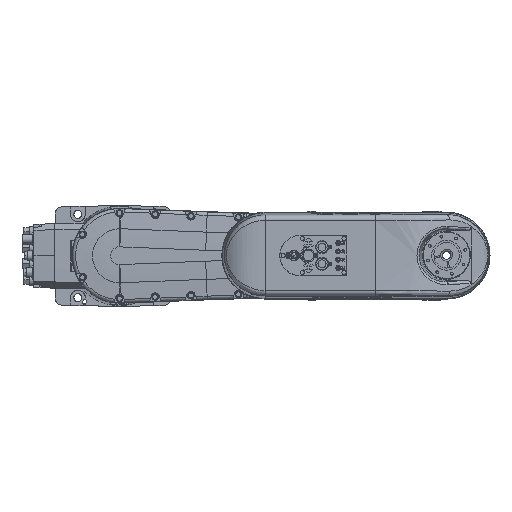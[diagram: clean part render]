
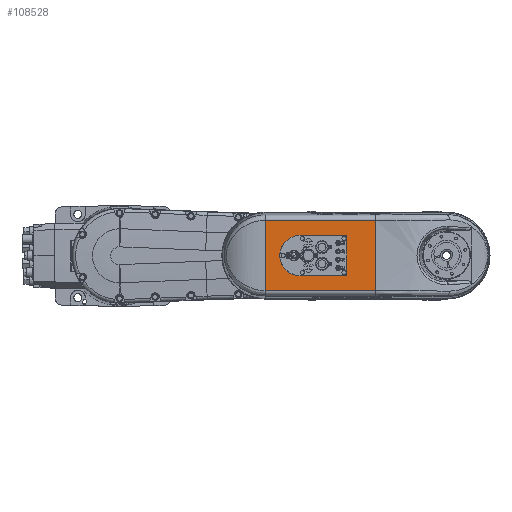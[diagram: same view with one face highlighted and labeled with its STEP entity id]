
A CAD part, top view. The second image highlights one B-rep face of the part: STEP entity #108528.
In plain terms, the highlighted planar face has unit normal (0, 0, 1).
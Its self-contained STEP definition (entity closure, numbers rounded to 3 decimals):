
#563 = DIRECTION ( 'NONE',  ( 0., 1., 0. ) ) ;
#685 = CARTESIAN_POINT ( 'NONE',  ( 303.5, -34., 457.7 ) ) ;
#2413 = EDGE_CURVE ( 'NONE', #72971, #26965, #75098, .T. ) ;
#2841 = ORIENTED_EDGE ( 'NONE', *, *, #95633, .T. ) ;
#4380 = EDGE_CURVE ( 'NONE', #104007, #23767, #85513, .T. ) ;
#4924 = EDGE_CURVE ( 'NONE', #26965, #104007, #38792, .T. ) ;
#5178 = EDGE_CURVE ( 'NONE', #20614, #14086, #85186, .T. ) ;
#5214 = ORIENTED_EDGE ( 'NONE', *, *, #16108, .F. ) ;
#5534 = VECTOR ( 'NONE', #6730, 1000. ) ;
#6730 = DIRECTION ( 'NONE',  ( -1., 0., 0. ) ) ;
#7633 = CARTESIAN_POINT ( 'NONE',  ( 382.5, 34., 457.7 ) ) ;
#8638 = EDGE_CURVE ( 'NONE', #106821, #20614, #63110, .T. ) ;
#10303 = DIRECTION ( 'NONE',  ( 1., 0., 0. ) ) ;
#11814 = ORIENTED_EDGE ( 'NONE', *, *, #5178, .T. ) ;
#12340 = CARTESIAN_POINT ( 'NONE',  ( 245., 59.156, 457.7 ) ) ;
#14086 = VERTEX_POINT ( 'NONE', #105914 ) ;
#14587 = CARTESIAN_POINT ( 'NONE',  ( 381.672, -34., 457.7 ) ) ;
#15045 = ORIENTED_EDGE ( 'NONE', *, *, #2413, .F. ) ;
#16108 = EDGE_CURVE ( 'NONE', #41041, #14086, #104235, .T. ) ;
#18399 = EDGE_LOOP ( 'NONE', ( #90274, #11814, #5214, #97958 ) ) ;
#19163 = CARTESIAN_POINT ( 'NONE',  ( 430., 59.156, 457.7 ) ) ;
#19726 = ORIENTED_EDGE ( 'NONE', *, *, #4924, .F. ) ;
#20614 = VERTEX_POINT ( 'NONE', #19163 ) ;
#20915 = CARTESIAN_POINT ( 'NONE',  ( 245., -59.156, 457.7 ) ) ;
#21265 = LINE ( 'NONE', #56710, #67665 ) ;
#21429 = CARTESIAN_POINT ( 'NONE',  ( 382.5, 32.001, 457.7 ) ) ;
#21921 = CARTESIAN_POINT ( 'NONE',  ( 380.501, -34., 457.7 ) ) ;
#23767 = VERTEX_POINT ( 'NONE', #21921 ) ;
#26965 = VERTEX_POINT ( 'NONE', #60411 ) ;
#27261 = VECTOR ( 'NONE', #29095, 1000. ) ;
#28049 = CARTESIAN_POINT ( 'NONE',  ( 382.5, -34., 457.7 ) ) ;
#29095 = DIRECTION ( 'NONE',  ( 0., 1., 0. ) ) ;
#29174 = LINE ( 'NONE', #7633, #84943 ) ;
#30361 = CARTESIAN_POINT ( 'NONE',  ( 382.5, 34., 457.7 ) ) ;
#31067 = EDGE_CURVE ( 'NONE', #41341, #70447, #29174, .T. ) ;
#34412 = ORIENTED_EDGE ( 'NONE', *, *, #41035, .T. ) ;
#36688 = VECTOR ( 'NONE', #65219, 1000. ) ;
#38792 = CIRCLE ( 'NONE', #69708, 34. ) ;
#39615 = DIRECTION ( 'NONE',  ( 1., 0., 0. ) ) ;
#40790 = DIRECTION ( 'NONE',  ( 0., 0., 1. ) ) ;
#41035 = EDGE_CURVE ( 'NONE', #41341, #23767, #66362, .T. ) ;
#41041 = VERTEX_POINT ( 'NONE', #20915 ) ;
#41341 = VERTEX_POINT ( 'NONE', #87612 ) ;
#49337 = CARTESIAN_POINT ( 'NONE',  ( 430., -59.156, 457.7 ) ) ;
#50919 = ORIENTED_EDGE ( 'NONE', *, *, #4380, .F. ) ;
#53975 = CARTESIAN_POINT ( 'NONE',  ( 430., -705.455, 457.7 ) ) ;
#55191 = CARTESIAN_POINT ( 'NONE',  ( 380.501, 34., 457.7 ) ) ;
#56710 = CARTESIAN_POINT ( 'NONE',  ( 430., -59.156, 457.7 ) ) ;
#57241 = CARTESIAN_POINT ( 'NONE',  ( 382.5, -33.172, 457.7 ) ) ;
#57857 = CARTESIAN_POINT ( 'NONE',  ( 245., 0., 457.7 ) ) ;
#58783 = DIRECTION ( 'NONE',  ( 0., 1., 0. ) ) ;
#60331 = CARTESIAN_POINT ( 'NONE',  ( 245., -705.242, 457.7 ) ) ;
#60411 = CARTESIAN_POINT ( 'NONE',  ( 303.5, 34., 457.7 ) ) ;
#60780 = AXIS2_PLACEMENT_3D ( 'NONE', #57857, #40790, #99835 ) ;
#62855 = VECTOR ( 'NONE', #10303, 1000. ) ;
#63110 = LINE ( 'NONE', #53975, #27261 ) ;
#63227 = DIRECTION ( 'NONE',  ( 0., 1., 0. ) ) ;
#64249 = CARTESIAN_POINT ( 'NONE',  ( 380.501, -34., 457.7 ) ) ;
#65219 = DIRECTION ( 'NONE',  ( -1., 0., 0. ) ) ;
#65623 = PLANE ( 'NONE',  #60780 ) ;
#66362 =( BOUNDED_CURVE ( )  B_SPLINE_CURVE ( 3, ( #105233, #57241, #14587, #64249 ),
 .UNSPECIFIED., .F., .F. ) 
 B_SPLINE_CURVE_WITH_KNOTS ( ( 4, 4 ),
 ( 2.357, 3.927 ),
 .UNSPECIFIED. ) 
 CURVE ( )  GEOMETRIC_REPRESENTATION_ITEM ( )  RATIONAL_B_SPLINE_CURVE ( ( 1., 0.805, 0.805, 1. ) ) 
 REPRESENTATION_ITEM ( '' )  );
#67665 = VECTOR ( 'NONE', #39615, 1000. ) ;
#67794 = EDGE_CURVE ( 'NONE', #41041, #106821, #21265, .T. ) ;
#69708 = AXIS2_PLACEMENT_3D ( 'NONE', #102602, #77633, #563 ) ;
#70447 = VERTEX_POINT ( 'NONE', #94743 ) ;
#72196 = CARTESIAN_POINT ( 'NONE',  ( 380.501, 34., 457.7 ) ) ;
#72935 = CARTESIAN_POINT ( 'NONE',  ( 382.5, 33.172, 457.7 ) ) ;
#72971 = VERTEX_POINT ( 'NONE', #55191 ) ;
#75098 = LINE ( 'NONE', #30361, #36688 ) ;
#77633 = DIRECTION ( 'NONE',  ( 0., 0., 1. ) ) ;
#83099 = ORIENTED_EDGE ( 'NONE', *, *, #31067, .F. ) ;
#84943 = VECTOR ( 'NONE', #58783, 1000. ) ;
#85186 = LINE ( 'NONE', #12340, #5534 ) ;
#85513 = LINE ( 'NONE', #28049, #62855 ) ;
#87612 = CARTESIAN_POINT ( 'NONE',  ( 382.5, -32.001, 457.7 ) ) ;
#90274 = ORIENTED_EDGE ( 'NONE', *, *, #8638, .T. ) ;
#94165 = FACE_OUTER_BOUND ( 'NONE', #18399, .T. ) ;
#94534 = EDGE_LOOP ( 'NONE', ( #15045, #2841, #83099, #34412, #50919, #19726 ) ) ;
#94743 = CARTESIAN_POINT ( 'NONE',  ( 382.5, 32.001, 457.7 ) ) ;
#95633 = EDGE_CURVE ( 'NONE', #72971, #70447, #109599, .T. ) ;
#97958 = ORIENTED_EDGE ( 'NONE', *, *, #67794, .T. ) ;
#98122 = FACE_BOUND ( 'NONE', #94534, .T. ) ;
#99835 = DIRECTION ( 'NONE',  ( 0., -1., 0. ) ) ;
#100138 = VECTOR ( 'NONE', #63227, 1000. ) ;
#102602 = CARTESIAN_POINT ( 'NONE',  ( 303.5, 0., 457.7 ) ) ;
#104007 = VERTEX_POINT ( 'NONE', #685 ) ;
#104235 = LINE ( 'NONE', #60331, #100138 ) ;
#105233 = CARTESIAN_POINT ( 'NONE',  ( 382.5, -32.001, 457.7 ) ) ;
#105914 = CARTESIAN_POINT ( 'NONE',  ( 245., 59.156, 457.7 ) ) ;
#106505 = CARTESIAN_POINT ( 'NONE',  ( 381.672, 34., 457.7 ) ) ;
#106821 = VERTEX_POINT ( 'NONE', #49337 ) ;
#108528 = ADVANCED_FACE ( 'NONE', ( #94165, #98122 ), #65623, .T. ) ;
#109599 =( BOUNDED_CURVE ( )  B_SPLINE_CURVE ( 3, ( #72196, #106505, #72935, #21429 ),
 .UNSPECIFIED., .F., .F. ) 
 B_SPLINE_CURVE_WITH_KNOTS ( ( 4, 4 ),
 ( 2.357, 3.927 ),
 .UNSPECIFIED. ) 
 CURVE ( )  GEOMETRIC_REPRESENTATION_ITEM ( )  RATIONAL_B_SPLINE_CURVE ( ( 1., 0.805, 0.805, 1. ) ) 
 REPRESENTATION_ITEM ( '' )  );
